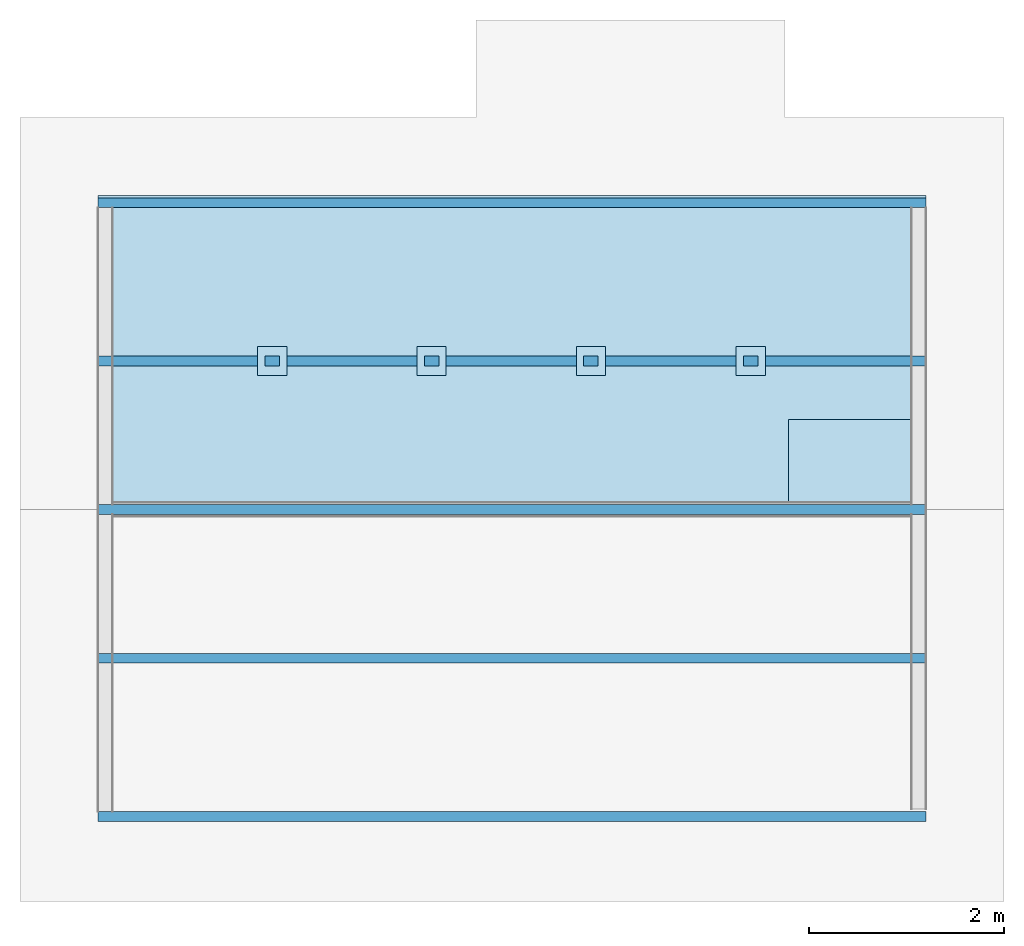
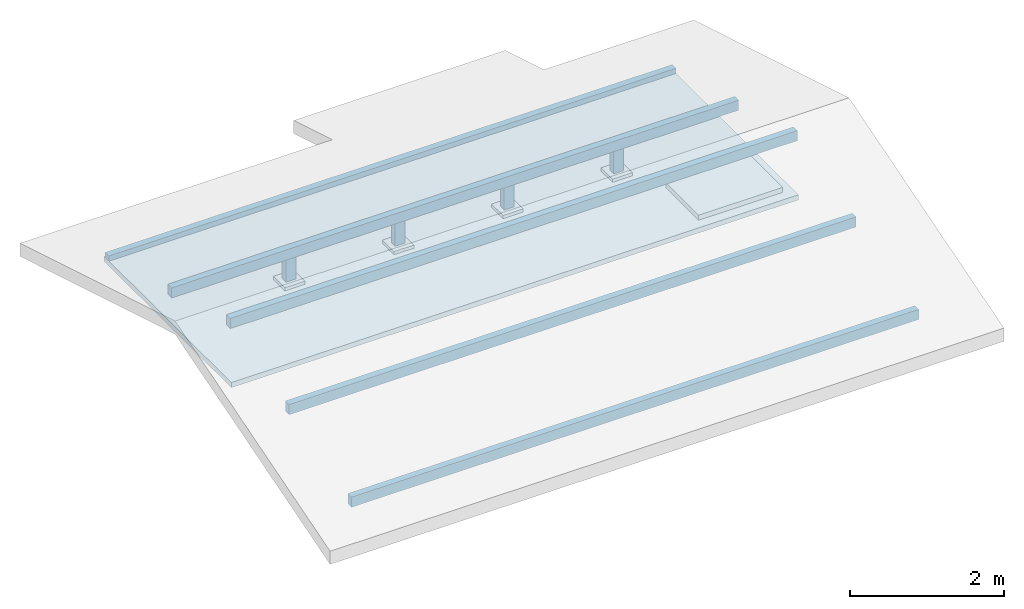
# One storey, part 1 of 4: 6 slabs, 5 beams, 4 columns.
"""IFC2X3 building model written with IfcOpenShell, lengths in millimetres."""

import ifcopenshell
import ifcopenshell.guid

model = None  # the IFC model being written
_history = None  # IfcOwnerHistory: only IFC2X3 demands one
_inside = {}  # id of a spatial element -> (the spatial element, [elements in it])
_under = {}  # id of a project, library or spatial element -> (it, [spatial elements below it])
_declared = {}  # id of a project -> (the project, [libraries it declares])
_typed = {}  # id of a type object -> (the type object, [elements of that type])
_made_of = {}  # id of a material, layer set ... -> (it, [elements and type objects made of it])


def new_model(schema):
    """Start an empty IFC model of exactly this schema.

    Asked for "IFC4X3", IfcOpenShell would pick the latest addendum, in which some entities
    have other attributes; the version numbers below select the first issue.
    IFC2X3 requires an IfcOwnerHistory on every rooted entity: one is made here for all.
    """
    global model, _history
    if schema == "IFC4X3":
        model = ifcopenshell.file(schema_version=(4, 3, 0, 0))
    else:
        model = ifcopenshell.file(schema=schema)
    _inside.clear()
    _under.clear()
    _declared.clear()
    _typed.clear()
    _made_of.clear()
    _history = None
    if model.schema == "IFC2X3":
        org = make("IfcOrganization", Name="unknown")
        user = make(
            "IfcPersonAndOrganization",
            ThePerson=make("IfcPerson", FamilyName="unknown"),
            TheOrganization=org,
        )
        app = make(
            "IfcApplication",
            ApplicationDeveloper=org,
            Version="unknown",
            ApplicationFullName="unknown",
            ApplicationIdentifier="unknown",
        )
        _history = make(
            "IfcOwnerHistory",
            OwningUser=user,
            OwningApplication=app,
            ChangeAction="ADDED",
            CreationDate=0,
        )
    return model


def make(cls, **values):
    """One entity of the class cls with the attributes given. An attribute that is None is left unset."""
    return model.create_entity(
        cls, **{name: value for name, value in values.items() if value is not None}
    )


def entity(cls, *values):
    """Any entity or typed value of the class cls, its attributes in the order of the schema. None: left unset."""
    e = model.create_entity(cls)
    for i, value in enumerate(values):
        if value is not None:
            e[i] = value
    return e


def rooted(cls, **values):
    """An entity with a GlobalId (a new one), such as an element, a storey or a relation."""
    return make(cls, GlobalId=ifcopenshell.guid.new(), OwnerHistory=_history, **values)


def si_unit(unit_type, name, prefix=None):
    """IfcSIUnit, for example si_unit("LENGTHUNIT", "METRE", prefix="MILLI")."""
    return make("IfcSIUnit", UnitType=unit_type, Prefix=prefix, Name=name)


def converted_unit(unit_type, name, factor, base, dimensions=None, offset=None):
    """IfcConversionBasedUnit, such as the inch: factor (a typed value) times the base unit."""
    return make(
        "IfcConversionBasedUnit"
        if offset is None
        else "IfcConversionBasedUnitWithOffset",
        ConversionOffset=offset,
        Dimensions=None
        if dimensions is None
        else entity("IfcDimensionalExponents", *dimensions),
        UnitType=unit_type,
        Name=name,
        ConversionFactor=make(
            "IfcMeasureWithUnit", ValueComponent=factor, UnitComponent=base
        ),
    )


def derived_unit(unit_type, elements):
    """IfcDerivedUnit: a product of units, each with its exponent."""
    return make(
        "IfcDerivedUnit",
        Elements=[
            make("IfcDerivedUnitElement", Unit=unit, Exponent=power)
            for unit, power in elements
        ],
        UnitType=unit_type,
    )


def money_unit(currency):
    """IfcMonetaryUnit."""
    return make("IfcMonetaryUnit", Currency=currency)


def assignment(units):
    """IfcUnitAssignment: the units of a project."""
    return None if units is None else make("IfcUnitAssignment", Units=units)


def point(xyz):
    """IfcCartesianPoint."""
    return None if xyz is None else make("IfcCartesianPoint", Coordinates=xyz)


def direction(xyz):
    """IfcDirection."""
    return None if xyz is None else make("IfcDirection", DirectionRatios=xyz)


def frame(location, z_axis=None, x_axis=None):
    """IfcAxis2Placement3D, a coordinate frame: its origin and axes. An axis left out is left unset."""
    return make(
        "IfcAxis2Placement3D",
        Location=point(location),
        Axis=direction(z_axis),
        RefDirection=direction(x_axis),
    )


def frame_2d(location, x_axis=None):
    """IfcAxis2Placement2D, a coordinate frame in the plane: its origin and x axis."""
    return make(
        "IfcAxis2Placement2D", Location=point(location), RefDirection=direction(x_axis)
    )


def origin_with_axes():
    """The frame at (0, 0, 0) with the z axis (0, 0, 1) and the x axis (1, 0, 0) written out."""
    return frame((0.0, 0.0, 0.0), z_axis=(0.0, 0.0, 1.0), x_axis=(1.0, 0.0, 0.0))


def origin_2d_with_axis():
    """The frame at (0, 0) in the plane with the x axis (1, 0) written out."""
    return frame_2d((0.0, 0.0), x_axis=(1.0, 0.0))


def place(relative_to, where):
    """IfcLocalPlacement: puts the frame where relative to a parent placement (None: the world)."""
    return make(
        "IfcLocalPlacement", PlacementRelTo=relative_to, RelativePlacement=where
    )


def context(
    kind, dimensions, precision=None, world=None, true_north=None, identifier=None
):
    """IfcGeometricRepresentationContext, for example the 3D "Model" context."""
    return make(
        "IfcGeometricRepresentationContext",
        ContextIdentifier=identifier,
        ContextType=kind,
        CoordinateSpaceDimension=dimensions,
        Precision=precision,
        WorldCoordinateSystem=world,
        TrueNorth=true_north,
    )


def subcontext(parent, identifier, kind, view, scale=None):
    """IfcGeometricRepresentationSubContext, for example "Body" below "Model"."""
    return make(
        "IfcGeometricRepresentationSubContext",
        ContextIdentifier=identifier,
        ContextType=kind,
        ParentContext=parent,
        TargetScale=scale,
        TargetView=view,
    )


def project(units=None, contexts=None):
    """IfcProject with its units and contexts."""
    return rooted(
        "IfcProject",
        Name="project",
        RepresentationContexts=contexts,
        UnitsInContext=assignment(units),
    )


def spatial(cls, under=None, at=None, **own):
    """A site, building, storey or space (cls), placed at a placement, below another one or the project."""
    s = rooted(cls, ObjectPlacement=at, **own)
    if under is not None:
        _under.setdefault(under.id(), (under, []))[1].append(s)
    return s


def polyline(points):
    """IfcPolyline through the points."""
    return make("IfcPolyline", Points=[point(p) for p in points])


def profile(cls, at=None, kind="AREA", **sizes):
    """A parametric profile (cls). Its sizes go by their IFC names, for example OverallWidth=200.0."""
    return make(cls, ProfileType=kind, Position=at, **sizes)


def rectangle(**sizes):
    """IfcRectangleProfileDef."""
    return profile("IfcRectangleProfileDef", **sizes)


def outline(outer, holes=None, kind="AREA"):
    """IfcArbitraryClosedProfileDef: a profile drawn as a closed curve; with holes, ...WithVoids."""
    if holes is None:
        return make("IfcArbitraryClosedProfileDef", ProfileType=kind, OuterCurve=outer)
    return make(
        "IfcArbitraryProfileDefWithVoids",
        ProfileType=kind,
        OuterCurve=outer,
        InnerCurves=holes,
    )


def extrude(swept, where, along, depth):
    """IfcExtrudedAreaSolid: the profile swept, set in the frame where, extruded along a direction by depth."""
    return make(
        "IfcExtrudedAreaSolid",
        SweptArea=swept,
        Position=where,
        ExtrudedDirection=direction(along),
        Depth=depth,
    )


def shape(context_of_items, identifier, shape_type, items):
    """IfcShapeRepresentation: the items that make up one representation, for example the "Body"."""
    return make(
        "IfcShapeRepresentation",
        ContextOfItems=context_of_items,
        RepresentationIdentifier=identifier,
        RepresentationType=shape_type,
        Items=items,
    )


def material(Name=None, Category=None):
    """IfcMaterial."""
    return make("IfcMaterial", Name=Name, Category=Category)


def layer(
    of_material, thickness, ventilated=None, Name=None, Category=None, Priority=None
):
    """IfcMaterialLayer: one layer of a wall or slab, of a material (None: an air gap)."""
    return make(
        "IfcMaterialLayer",
        Material=of_material,
        LayerThickness=thickness,
        IsVentilated=ventilated,
        Name=Name,
        Category=Category,
        Priority=Priority,
    )


def layer_set(layers, Name=None):
    """IfcMaterialLayerSet."""
    return make("IfcMaterialLayerSet", MaterialLayers=layers, LayerSetName=Name)


def layer_usage(for_layer_set, set_direction, sense, offset, extent=None):
    """IfcMaterialLayerSetUsage: how a layer set lies in its element."""
    return make(
        "IfcMaterialLayerSetUsage",
        ForLayerSet=for_layer_set,
        LayerSetDirection=set_direction,
        DirectionSense=sense,
        OffsetFromReferenceLine=offset,
        ReferenceExtent=extent,
    )


def made_of(thing, what):
    """Note that an element or type object is made of a material, layer set ...; save() writes the relation."""
    if what is not None:
        _made_of.setdefault(what.id(), (what, []))[1].append(thing)
    return thing


def type_object(cls, material=None, **own):
    """A type object (cls), such as IfcWallType, which elements share."""
    return made_of(rooted(cls, **own), material)


def element(
    cls,
    number,
    at=None,
    inside=None,
    cuts=None,
    type_object=None,
    material=None,
    context=None,
    identifier="Body",
    shape_type=None,
    held_by="IfcProductDefinitionShape",
    body=None,
    shapes=None,
    **own,
):
    """One element of the class cls, such as IfcWall. Its Tag is "e" and its number.

    at: its placement. inside: the storey or other place that contains it. cuts: it is an
    opening in that element (IfcRelVoidsElement). A single representation is given by context,
    identifier, shape_type and body (its items); several are given by shapes. held_by: the class
    of the entity that holds the representations. save() writes the other relations.
    """
    e = rooted(cls, Tag="e%d" % number, ObjectPlacement=at, **own)
    if body is not None:
        shapes = [shape(context, identifier, shape_type, body)]
    if shapes is not None:
        e.Representation = make(held_by, Representations=shapes)
    if inside is not None:
        _inside.setdefault(inside.id(), (inside, []))[1].append(e)
    if cuts is not None:
        rooted(
            "IfcRelVoidsElement", RelatingBuildingElement=cuts, RelatedOpeningElement=e
        )
    if type_object is not None:
        _typed.setdefault(type_object.id(), (type_object, []))[1].append(e)
    return made_of(e, material)


def aggregate(whole, parts):
    """IfcRelAggregates: a whole, such as a stair, and the parts it consists of."""
    return rooted("IfcRelAggregates", RelatingObject=whole, RelatedObjects=parts)


def save(model, path):
    """Write the relations noted so far, then the file.

    IfcRelAggregates (storeys below a building ...), IfcRelContainedInSpatialStructure (elements
    in a storey), IfcRelDefinesByType, IfcRelAssociatesMaterial and IfcRelDeclares: one each for
    every whole, place, type object, material and project.
    """
    for whole, parts in _under.values():
        aggregate(whole, parts)
    for where, things in _inside.values():
        rooted(
            "IfcRelContainedInSpatialStructure",
            RelatedElements=things,
            RelatingStructure=where,
        )
    for kind, things in _typed.values():
        rooted("IfcRelDefinesByType", RelatedObjects=things, RelatingType=kind)
    for what, things in _made_of.values():
        rooted("IfcRelAssociatesMaterial", RelatedObjects=things, RelatingMaterial=what)
    for by, libraries in _declared.values():
        rooted("IfcRelDeclares", RelatingContext=by, RelatedDefinitions=libraries)
    model.write(path)


model = new_model("IFC2X3")

# Units and contexts
model_context = context("Model", 3, precision=0.01, world=origin_with_axes(), true_north=direction((0.0, 1.0)))
body_context = subcontext(model_context, "Body", "Model", "MODEL_VIEW")
ifc_project = project(units=[si_unit("LENGTHUNIT", "METRE", prefix="MILLI"), si_unit("AREAUNIT", "SQUARE_METRE"), si_unit("VOLUMEUNIT", "CUBIC_METRE"), converted_unit("PLANEANGLEUNIT", "DEGREE", entity("IfcPlaneAngleMeasure", 0.0174532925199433), si_unit("PLANEANGLEUNIT", "RADIAN"), dimensions=[0, 0, 0, 0, 0, 0, 0]), money_unit("USD"), converted_unit("TIMEUNIT", "Year", entity("IfcTimeMeasure", 31557600.0), si_unit("TIMEUNIT", "SECOND"), dimensions=[0, 0, 1, 0, 0, 0, 0]), si_unit("MASSUNIT", "GRAM", prefix="KILO"), si_unit("THERMODYNAMICTEMPERATUREUNIT", "DEGREE_CELSIUS"), si_unit("LUMINOUSINTENSITYUNIT", "LUMEN"), si_unit("ENERGYUNIT", "JOULE", prefix="MEGA"), derived_unit("THERMALCONDUCTANCEUNIT", [(si_unit("POWERUNIT", "WATT"), 1), (si_unit("LENGTHUNIT", "METRE"), -1), (si_unit("THERMODYNAMICTEMPERATUREUNIT", "KELVIN"), -1)]), derived_unit("SPECIFICHEATCAPACITYUNIT", [(si_unit("ENERGYUNIT", "JOULE"), 1), (si_unit("MASSUNIT", "GRAM", prefix="KILO"), -1), (si_unit("THERMODYNAMICTEMPERATUREUNIT", "KELVIN"), -1)]), derived_unit("MASSDENSITYUNIT", [(si_unit("MASSUNIT", "GRAM", prefix="KILO"), 1), (si_unit("VOLUMEUNIT", "CUBIC_METRE"), -1)])], contexts=[model_context])

# Site, building, storey
site_placement = place(None, origin_with_axes())
site = spatial("IfcSite", under=ifc_project, at=site_placement, Name="Local", CompositionType="ELEMENT")
building_placement = place(site_placement, origin_with_axes())
building = spatial("IfcBuilding", under=site, at=building_placement, Name="Construção", CompositionType="ELEMENT")
storey_placement = place(building_placement, frame((0.0, 0.0, 2500.0), z_axis=(0.0, 0.0, 1.0), x_axis=(1.0, 0.0, 0.0)))
storey = spatial("IfcBuildingStorey", under=building, at=storey_placement, Name="Cobertura", CompositionType="ELEMENT", Elevation=2500.0)

# Columns
ifc_material_1 = material(Name="Madeiramento - Cobertura")
column_type = type_object("IfcColumnType", Name="Madeiramento - Cobertura 150 x 100", PredefinedType="NOTDEFINED")
for number, where, z_axis, x_axis, name in (
    (1, (3425.000000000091, 4750.000000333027, 129.9999999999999), (0.0, 0.0, 1.0), (1.0, 0.0, 0.0), "PIL03"),
    (2, (5060.000000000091, 4750.000000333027, 130.0000000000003), (0.0, 0.0, 1.0), (1.0, 0.0, 0.0), "PIL02"),
    (3, (1790.000000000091, 4750.000000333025, 129.9999999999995), (0.0, 0.0, 1.0), (1.0, 0.0, 0.0), "PIL04"),
    (4, (6700.000000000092, 4750.000000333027, 130.0000000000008), (0.0, 0.0, 1.0), (1.0, 0.0, 0.0), "PIL01"),
):
    element("IfcColumn", number, at=place(storey_placement, frame(where, z_axis=z_axis, x_axis=x_axis)), inside=storey, type_object=column_type, material=ifc_material_1, Name=name, context=body_context, shape_type="SweptSolid", body=[
        extrude(rectangle(XDim=150.0, YDim=100.0, at=origin_2d_with_axis()), origin_with_axes(), (0.0, 0.0, 1.0), 350.0000000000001),
    ])

# Beams
beam_type_1 = type_object("IfcBeamType", Name="Madeiramento - Cobertura 100 x 160", PredefinedType="NOTDEFINED")
for number, where, z_axis, x_axis, name in (
    (5, (0.0, 74.99999999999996, 160.0000000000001), (0.0, 0.0, 1.0), (0.0, -1.0, 0.0), "T01"),
    (6, (0.0, 3225.000000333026, 1082.951740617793), (0.0, 0.0, 1.0), (0.0, -1.0, 0.0), "T03"),
    (7, (0.0, 1700.000000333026, 640.4517406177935), (0.0, 0.0, 1.0), (0.0, -1.0, 0.0), "T02"),
    (8, (0.0, 4750.000000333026, 640.4517407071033), (0.0, 0.0, 1.0), (0.0, -1.0, 0.0), "T04"),
):
    element("IfcBeam", number, at=place(storey_placement, frame(where, z_axis=z_axis, x_axis=x_axis)), inside=storey, type_object=beam_type_1, material=ifc_material_1, Name=name, context=body_context, shape_type="SweptSolid", body=[
        extrude(rectangle(XDim=160.0, YDim=100.0, at=frame_2d((-80.0, 0.0), x_axis=(1.0, 0.0))), frame((0.0, 0.0, 0.0), z_axis=(0.0, 1.0, 0.0), x_axis=(0.0, 0.0, 1.0)), (0.0, 0.0, 1.0), 8500.0),
    ])
beam_type_2 = type_object("IfcBeamType", Name="Madeiramento - Cobertura 100 x 80", PredefinedType="NOTDEFINED")
beam_placement = place(storey_placement, frame((0.0, 6375.000000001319, 160.0000000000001), z_axis=(0.0, 0.0, 1.0), x_axis=(0.0, -1.0, 0.0)))
element("IfcBeam", 9, at=beam_placement, inside=storey, type_object=beam_type_2, material=ifc_material_1, Name="T05", context=body_context, shape_type="SweptSolid", body=[
    extrude(rectangle(XDim=80.0, YDim=100.0, at=frame_2d((-40.0, 0.0), x_axis=(1.0, 0.0))), frame((0.0, 0.0, 0.0), z_axis=(0.0, 1.0, 0.0), x_axis=(0.0, 0.0, 1.0)), (0.0, 0.0, 1.0), 8500.0),
])

# Slabs
ifc_material_2 = material(Name="Concreto Armado - Estrutural")
ifc_layer_1 = layer(ifc_material_2, 80.0, ventilated="UNKNOWN")
ifc_layer_set_1 = layer_set([ifc_layer_1], Name="Concreto Armado - Estrutural 80")
ifc_layer_usage_1 = layer_usage(ifc_layer_set_1, "AXIS3", "NEGATIVE", 80.0)
slab_type_1 = type_object("IfcSlabType", Name="Concreto Armado - Estrutural 80", PredefinedType="NOTDEFINED")
slab_1_placement = place(storey_placement, frame((0.0, 3149.999999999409, 0.0), z_axis=(0.0, 0.0, 1.0), x_axis=(1.0, 0.0, 0.0)))
element("IfcSlab", 10, at=slab_1_placement, inside=storey, type_object=slab_type_1, material=ifc_layer_usage_1, Name="L02", PredefinedType="NOTDEFINED", context=body_context, shape_type="SweptSolid", body=[
    extrude(outline(polyline([(0.0, 0.0), (8500.0, 0.0), (8500.0, 3300.000000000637), (0.0, 3300.000000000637), (0.0, 0.0)])), origin_with_axes(), (0.0, 0.0, 1.0), 80.0),
])
ifc_layer_2 = layer(ifc_material_1, 50.0, ventilated="UNKNOWN")
ifc_layer_set_2 = layer_set([ifc_layer_2], Name="Madeiramento - Cobertura 50")
ifc_layer_usage_2 = layer_usage(ifc_layer_set_2, "AXIS3", "NEGATIVE", 50.0)
slab_type_2 = type_object("IfcSlabType", Name="Madeiramento - Cobertura 50", PredefinedType="NOTDEFINED")
slab_2_placement = place(storey_placement, frame((6850.000000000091, 4900.000000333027, 79.99999999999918), z_axis=(0.0, 0.0, 1.0), x_axis=(1.0, 0.0, 0.0)))
element("IfcSlab", 11, at=slab_2_placement, inside=storey, type_object=slab_type_2, material=ifc_layer_usage_2, Name="PL01", PredefinedType="NOTDEFINED", context=body_context, shape_type="SweptSolid", body=[
    extrude(outline(polyline([(0.0, 0.0), (-299.9999999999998, 0.0), (-299.9999999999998, -299.9999999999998), (0.0, -299.9999999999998), (0.0, 0.0)])), origin_with_axes(), (0.0, 0.0, 1.0), 50.0),
])
ifc_layer_usage_3 = layer_usage(ifc_layer_set_2, "AXIS3", "NEGATIVE", 50.0)
slab_3_placement = place(storey_placement, frame((5210.000000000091, 4900.000000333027, 79.99999999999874), z_axis=(0.0, 0.0, 1.0), x_axis=(1.0, 0.0, 0.0)))
element("IfcSlab", 12, at=slab_3_placement, inside=storey, type_object=slab_type_2, material=ifc_layer_usage_3, Name="PL02", PredefinedType="NOTDEFINED", context=body_context, shape_type="SweptSolid", body=[
    extrude(outline(polyline([(0.0, 0.0), (-299.9999999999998, 0.0), (-299.9999999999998, -299.9999999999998), (0.0, -299.9999999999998), (0.0, 0.0)])), origin_with_axes(), (0.0, 0.0, 1.0), 50.0),
])
ifc_layer_usage_4 = layer_usage(ifc_layer_set_2, "AXIS3", "NEGATIVE", 50.0)
slab_4_placement = place(storey_placement, frame((3575.00000000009, 4900.000000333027, 79.9999999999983), z_axis=(0.0, 0.0, 1.0), x_axis=(1.0, 0.0, 0.0)))
element("IfcSlab", 13, at=slab_4_placement, inside=storey, type_object=slab_type_2, material=ifc_layer_usage_4, Name="PL03", PredefinedType="NOTDEFINED", context=body_context, shape_type="SweptSolid", body=[
    extrude(outline(polyline([(0.0, 0.0), (-299.9999999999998, 0.0), (-299.9999999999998, -299.9999999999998), (0.0, -299.9999999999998), (0.0, 0.0)])), origin_with_axes(), (0.0, 0.0, 1.0), 50.0),
])
ifc_layer_usage_5 = layer_usage(ifc_layer_set_2, "AXIS3", "NEGATIVE", 50.0)
slab_5_placement = place(storey_placement, frame((1940.000000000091, 4900.000000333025, 79.99999999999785), z_axis=(0.0, 0.0, 1.0), x_axis=(1.0, 0.0, 0.0)))
element("IfcSlab", 14, at=slab_5_placement, inside=storey, type_object=slab_type_2, material=ifc_layer_usage_5, Name="PL04", PredefinedType="NOTDEFINED", context=body_context, shape_type="SweptSolid", body=[
    extrude(outline(polyline([(0.0, 0.0), (-299.9999999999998, 0.0), (-299.9999999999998, -299.9999999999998), (0.0, -299.9999999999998), (0.0, 0.0)])), origin_with_axes(), (0.0, 0.0, 1.0), 50.0),
])
ifc_material_3 = material(Name="Concreto")
ifc_layer_3 = layer(ifc_material_3, 80.0, ventilated="UNKNOWN")
ifc_layer_set_3 = layer_set([ifc_layer_3], Name="Concreto 80")
ifc_layer_usage_6 = layer_usage(ifc_layer_set_3, "AXIS3", "NEGATIVE", 80.0)
slab_type_3 = type_object("IfcSlabType", Name="Concreto 80", PredefinedType="FLOOR")
slab_6_placement = place(storey_placement, frame((8350.0, 3299.99999999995, 80.00000000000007), z_axis=(0.0, 0.0, 1.0), x_axis=(1.0, 0.0, 0.0)))
element("IfcSlab", 15, at=slab_6_placement, inside=storey, type_object=slab_type_3, material=ifc_layer_usage_6, Name="CP01", PredefinedType="FLOOR", context=body_context, shape_type="SweptSolid", body=[
    extrude(outline(polyline([(0.0, 0.0), (0.0, 850.0000000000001), (-1260.0, 850.0000000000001), (-1260.0, 0.0), (0.0, 0.0)])), origin_with_axes(), (0.0, 0.0, 1.0), 80.0),
])

save(model, "model.ifc")
